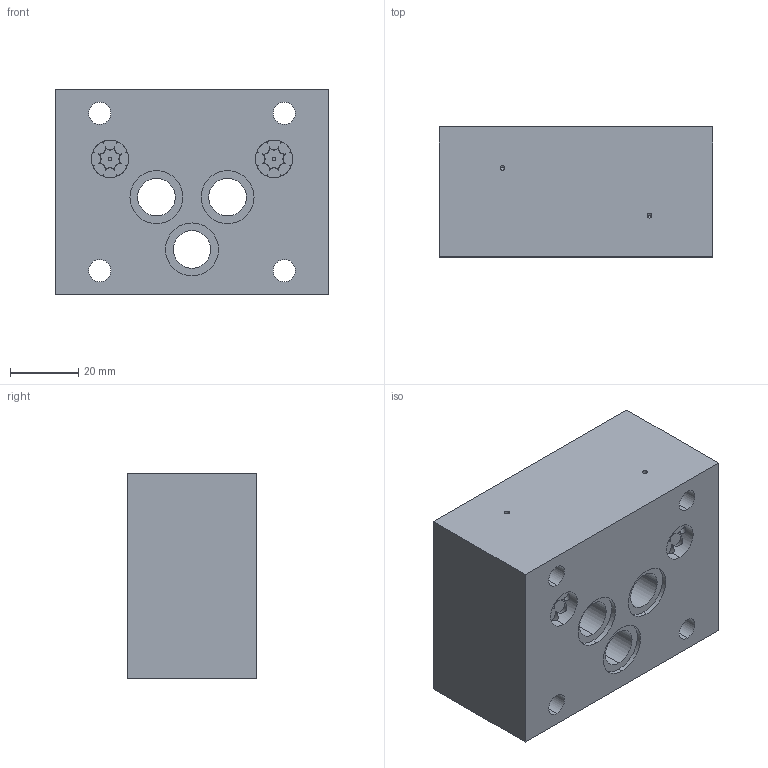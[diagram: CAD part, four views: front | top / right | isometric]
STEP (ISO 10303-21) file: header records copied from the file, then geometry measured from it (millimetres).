
FILE_DESCRIPTION (( 'STEP AP214' ), '1' );
FILE_NAME ('ARVT10.STEP', '2017-04-11T09:34:47', ( '' ), ( '' ), 'SwSTEP 2.0', 'SolidWorks 2016', '' );
FILE_SCHEMA (( 'AUTOMOTIVE_DESIGN' ));
Length unit declared in the file: millimetre
Products named in the file (1): ARVT10
Bounding box: 80 x 38 x 60 mm (x, y, z)
Volume: 162926.3 mm3; surface area: 28869.6 mm2
Topology: 1 solids, 3 shells, 191 faces, 476 edges, 306 vertices
Faces by surface type: cylinder 104, plane 43, torus 24, cone 20
Entity records: 8235 total; most frequent: CARTESIAN_POINT 2014, ORIENTED_EDGE 944, DIRECTION 832, EDGE_CURVE 472, AXIS2_PLACEMENT_3D 364, VERTEX_POINT 306, EDGE_LOOP 228, FACE_OUTER_BOUND 191
